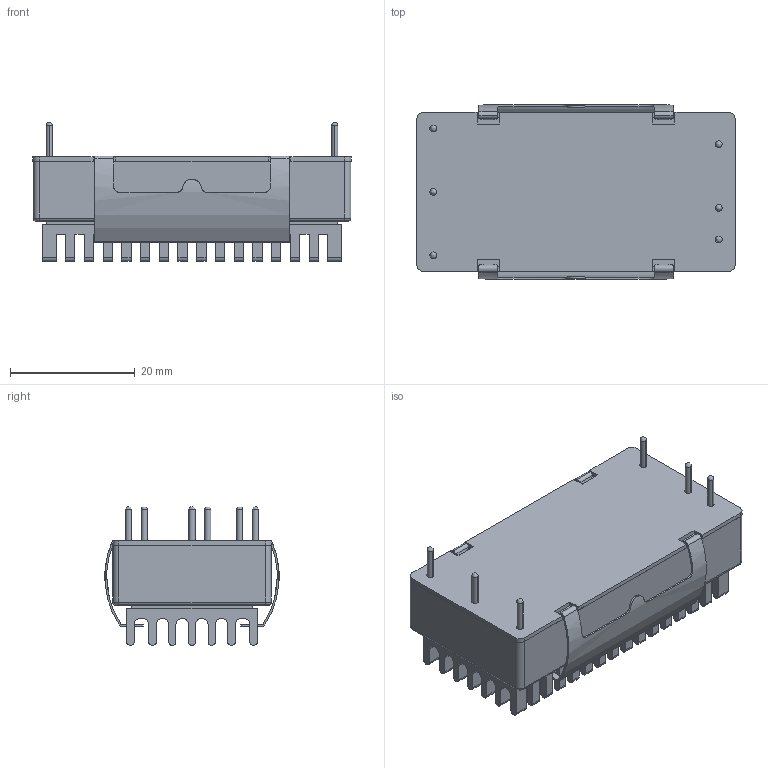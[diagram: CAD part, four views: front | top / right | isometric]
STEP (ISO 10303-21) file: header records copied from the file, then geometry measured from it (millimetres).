
FILE_DESCRIPTION (( 'STEP AP214' ), '1' );
FILE_NAME ('ten40win-with-heatsink.STEP', '2016-03-31T15:05:45', ( '' ), ( '' ), 'SwSTEP 2.0', 'SolidWorks 2013', '' );
FILE_SCHEMA (( 'AUTOMOTIVE_DESIGN' ));
Length unit declared in the file: millimetre
Products named in the file (2): assembly; ten40win-with-heatsink
Assembly tree (1 placements, depth 2):
  ten40win-with-heatsink
    assembly
Bounding box: 50.95 x 27.92 x 22.25 mm (x, y, z)
Volume: 5447.3 mm3; surface area: 12726.8 mm2
Topology: 7 solids, 7 shells, 1024 faces, 2768 edges, 1720 vertices
Faces by surface type: plane 540, cylinder 470, bspline 10, torus 4
Entity records: 43626 total; most frequent: CARTESIAN_POINT 5942, DIRECTION 5672, ORIENTED_EDGE 5504, EDGE_CURVE 2752, AXIS2_PLACEMENT_3D 1954, LINE 1764, VECTOR 1764, VERTEX_POINT 1720
